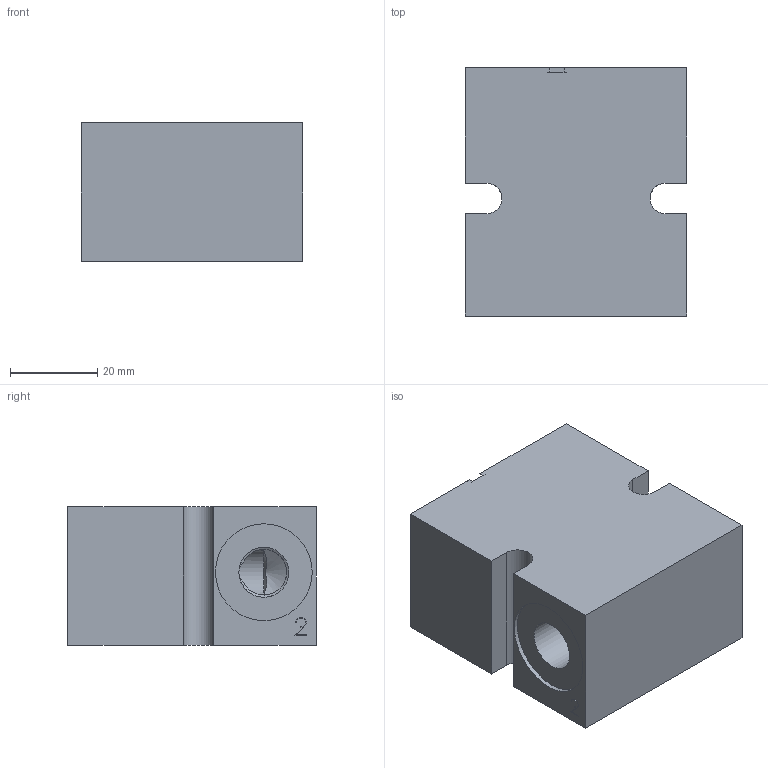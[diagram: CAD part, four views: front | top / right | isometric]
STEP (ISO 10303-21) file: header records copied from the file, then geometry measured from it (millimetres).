
FILE_DESCRIPTION( ( 'Unknown' ), '1' );
FILE_NAME( 'G:/Graphic Design/Graphic Design 2/Data Sheets/Delta Bodies/DRAWINGS/B-DPBA2L.stp', 'Unknown', ( 'Unknown' ), ( 'Unknown' ), 'PSStep 16.0.42', 'Unknown', ' ' );
FILE_SCHEMA( ( 'AUTOMOTIVE_DESIGN { 1 0 10303 214 1 1 1 1 }' ) );
Length unit declared in the file: millimetre
Products named in the file (2): Assem1; B-DPBA2L
Assembly tree (1 placements, depth 2):
  Assem1
    B-DPBA2L
Bounding box: 50.8 x 57 x 31.75 mm (x, y, z)
Surface area: 16488.3 mm2 (no closed solid volume)
Topology: 0 solids, 83 shells, 83 faces, 418 edges, 401 vertices
Faces by surface type: plane 57, cylinder 17, cone 9
Full cylindrical faces by diameter (mm): 0.2 x2, 10.5 x1, 11 x1, 11.5 x4, 12.7 x1, 17.33 x2, 22.22 x2
Entity records: 4792 total; most frequent: CARTESIAN_POINT 1393, DIRECTION 452, ORIENTED_EDGE 390, EDGE_CURVE 390, VERTEX_POINT 390, B_SPLINE_CURVE_WITH_KNOTS 176, AXIS2_PLACEMENT_3D 153, LINE 146
